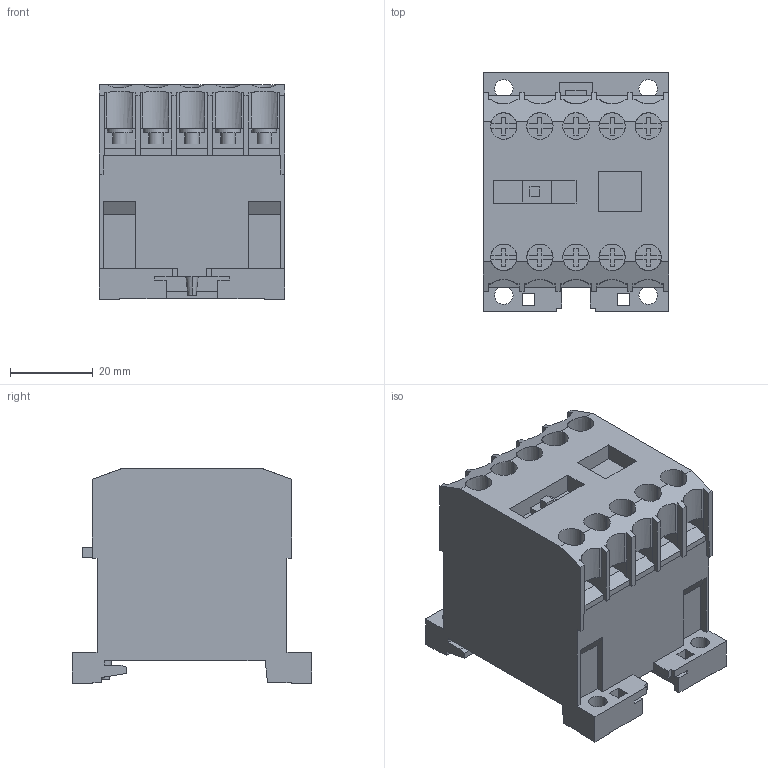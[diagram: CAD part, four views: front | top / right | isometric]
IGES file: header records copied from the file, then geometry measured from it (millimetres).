
Start section: Data from XPlus IGES,  Spatial Corp. Copyright (c) 1999-2004
Global section: file name: 051774.igs; native system:  By Spatial Corp.; preprocessor: XPlus ACIS/IGES 3.0; author: Noname; organization: Noname; date: 20120625.174133; units: millimetre
Bounding box: 45 x 58 x 52 mm (x, y, z)
Surface area: 21613.2 mm2 (no closed solid volume)
Topology: 0 solids, 0 shells, 485 faces, 2850 edges, 2850 vertices
Faces by surface type: extrusion 405, revolution 80
